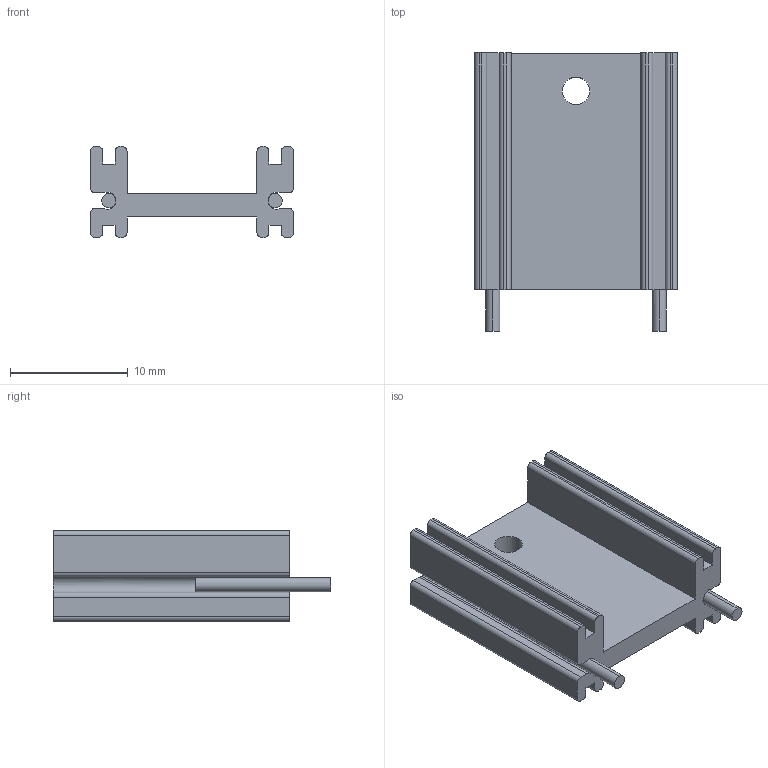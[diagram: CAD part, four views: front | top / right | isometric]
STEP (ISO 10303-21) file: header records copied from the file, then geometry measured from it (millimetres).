
FILE_DESCRIPTION (( 'STEP AP214' ), '1' );
FILE_NAME ('step-HS-1101-v01.STEP', '2011-11-05T03:57:34', ( '微软用户' ), ( '微软中国' ), 'SwSTEP 2.0', 'SolidWorks 2010', '' );
FILE_SCHEMA (( 'AUTOMOTIVE_DESIGN' ));
Length unit declared in the file: millimetre
Products named in the file (1): step-HS-1101-v01
Bounding box: 17.25 x 23.65 x 7.75 mm (x, y, z)
Volume: 1199.4 mm3; surface area: 1712.3 mm2
Topology: 1 solids, 1 shells, 76 faces, 222 edges, 148 vertices
Faces by surface type: plane 44, cylinder 32
Entity records: 3412 total; most frequent: DIRECTION 448, CARTESIAN_POINT 447, ORIENTED_EDGE 444, EDGE_CURVE 222, LINE 150, VECTOR 150, AXIS2_PLACEMENT_3D 149, VERTEX_POINT 148
